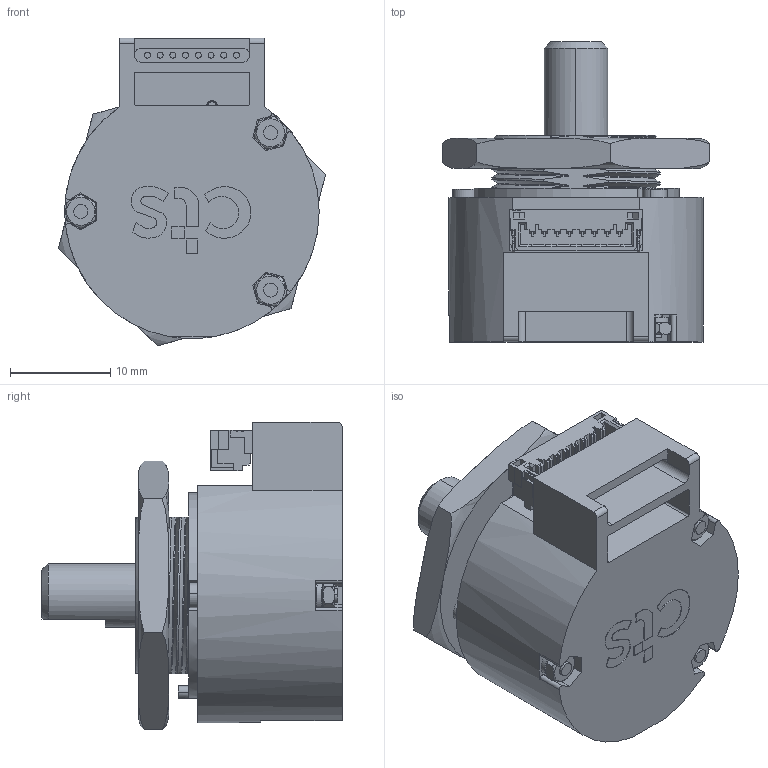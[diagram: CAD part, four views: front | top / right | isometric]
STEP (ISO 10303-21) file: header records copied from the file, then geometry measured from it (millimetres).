
FILE_DESCRIPTION(('Creo Elements/Direct Modeling STEP Export'),'2;1');
FILE_NAME('293_connector.stp','2013-04-07T23:41:25',(''),(''),'Creo Elements/Direct Modeling STEP processor for AP214 (Solid Model)','Creo Elements/Direct Modeling 18.1C 24-Feb-2013 (C) Parametric Technology GmbH','');
FILE_SCHEMA(('AUTOMOTIVE_DESIGN { 1 0 10303 214 1 1 1 1 }'));
Length unit declared in the file: millimetre
Products named in the file (4): 293-25-001_0.PRT.1; 293-50-002_0.PRT
Assembly tree (2 placements, depth 2):
  293-25-001_0.PRT.1
    293-25-001_0.PRT.1
  293-50-002_0.PRT
    293-50-002_0.PRT
Bounding box: 26.7 x 29.98 x 30.72 mm (x, y, z)
Volume: 901.8 mm3; surface area: 6226.8 mm2
Topology: 23 solids, 24 shells, 783 faces, 2112 edges, 1394 vertices
Faces by surface type: plane 541, cylinder 163, bspline 42, torus 24, cone 10, sphere 3
Entity records: 28143 total; most frequent: CARTESIAN_POINT 9077, ORIENTED_EDGE 4238, DIRECTION 3488, EDGE_CURVE 2111, VECTOR 1518, LINE 1518, VERTEX_POINT 1394, AXIS2_PLACEMENT_3D 985
